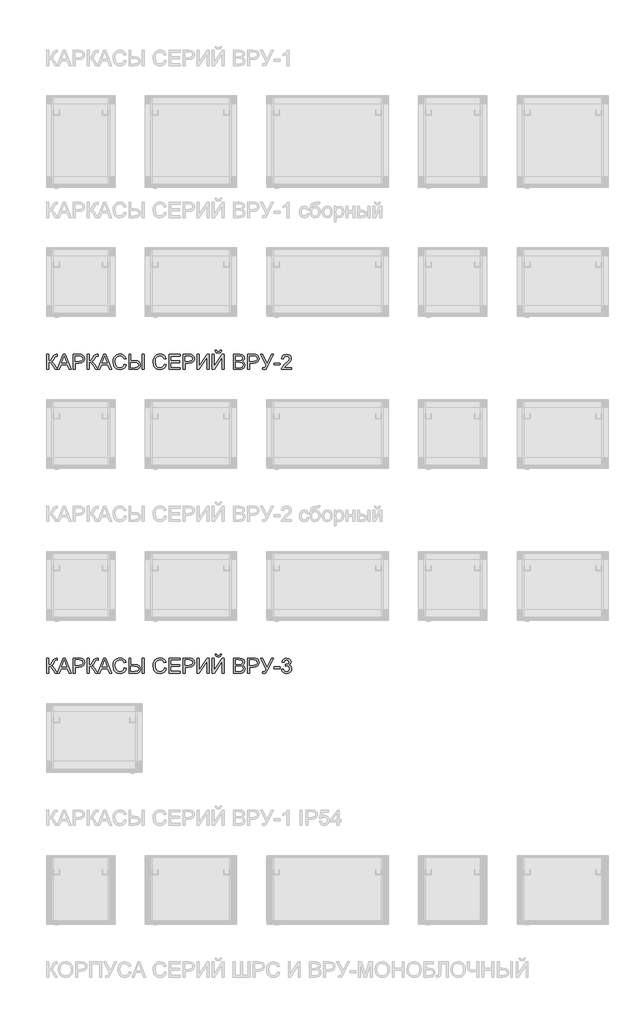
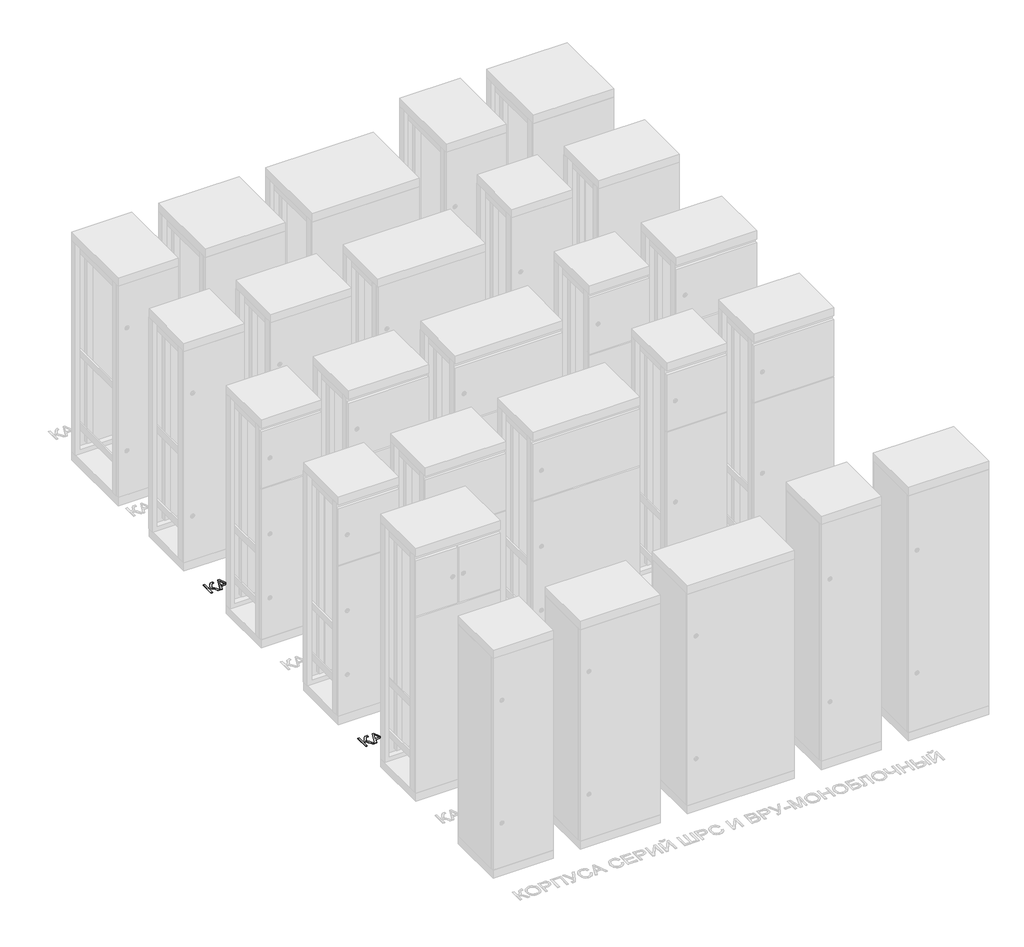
# One storey, part 5 of 25: 2 proxies.
"""IFC4 building model written with IfcOpenShell, lengths in millimetres."""

from ifc_helpers import new_model, si_unit, frame, origin, place, context, project, spatial, polyline, outline, extrude, element, save

model = new_model("IFC4")

# Units and contexts
model_context = context("Model", 3, world=origin())
ifc_project = project(units=[si_unit("LENGTHUNIT", "METRE", prefix="MILLI")], contexts=[model_context])

# Site, building, storey
site = spatial("IfcSite", under=ifc_project)
building = spatial("IfcBuilding", under=site)
storey = spatial("IfcBuildingStorey", under=building, Name="Этаж 01", Elevation=0.0)

# Proxies
placement = place(None, origin())
element("IfcBuildingElementProxy", 1, Name="Надпись на модели 1", ObjectType="Надпись на модели 1", at=placement, inside=storey, context=model_context, shape_type="SweptSolid", body=[
    extrude(outline(polyline([(-18982.0558227, 1786.235284), (-18999.9103622, 1814.5376722), (-19012.4796637, 1829.3142656), (-19025.564, 1833.3241794), (-19025.564, 1786.235284), (-19038.1210387, 1786.235284), (-19038.1210387, 1886.6915941), (-19025.564, 1886.6915941), (-19025.564, 1842.7419585), (-19011.5231705, 1846.0651591), (-19001.7252467, 1862.8773663), (-18994.7968024, 1876.9181958), (-18986.9486532, 1883.8711655), (-18975.7282523, 1886.6915941), (-18967.4876957, 1886.5444413), (-18967.4876957, 1873.9874026), (-18970.2590734, 1874.060979), (-18973.030451, 1874.1345554), (-18982.8406376, 1871.117923), (-18990.2963794, 1858.1930022), (-18999.1868609, 1842.4476529), (-19007.8566133, 1837.248254), (-18998.1629227, 1831.5706085), (-18988.6041222, 1819.737071), (-18967.9231583, 1786.9261574), (-18928.0997967, 1886.6915941), (-18917.4066934, 1886.6915941), (-18877.3075559, 1786.235284), (-18890.5758332, 1786.235284), (-18902.0782769, 1817.6278809), (-18943.4527386, 1817.6278809), (-18954.9306569, 1786.235284), (-18968.1989342, 1786.235284), (-18982.0558227, 1786.235284)]), holes=[polyline([(-18938.841951, 1830.1849197), (-18906.6645391, 1830.1849197), (-18915.7144362, 1854.8820643), (-18922.753245, 1874.1345554), (-18929.007239, 1857.0403053), (-18938.841951, 1830.1849197)])]), frame((0.0, 0.0, 40.0), z_axis=(0.0, 0.0, 1.0), x_axis=(1.0, 0.0, 0.0)), (0.0, 0.0, 1.0), 2.0),
    extrude(outline(polyline([(-18863.8921258, 1786.235284), (-18863.8921258, 1886.6915941), (-18826.6624679, 1886.6915941), (-18811.6528825, 1885.735101), (-18799.451463, 1881.0384742), (-18791.5420001, 1871.3263895), (-18788.5498932, 1857.6289165), (-18790.5701785, 1845.7892476), (-18796.6310344, 1835.9238788), (-18807.9648655, 1829.2652147), (-18825.8040766, 1827.04566), (-18851.335087, 1827.04566), (-18851.335087, 1786.235284), (-18863.8921258, 1786.235284)]), holes=[polyline([(-18851.335087, 1839.6026988), (-18825.0683126, 1839.6026988), (-18806.576111, 1844.2134864), (-18802.4742267, 1849.7623732), (-18801.106932, 1857.1874581), (-18804.3320308, 1867.5862559), (-18812.8055794, 1873.2761641), (-18825.3626182, 1874.1345554), (-18851.335087, 1874.1345554), (-18851.335087, 1839.6026988)])]), frame((0.0, 0.0, 40.0), z_axis=(0.0, 0.0, 1.0), x_axis=(1.0, 0.0, 0.0)), (0.0, 0.0, 1.0), 2.0),
    extrude(outline(polyline([(-18715.2187488, 1786.235284), (-18733.0732883, 1814.5376722), (-18745.6425898, 1829.3142656), (-18758.7269261, 1833.3241794), (-18758.7269261, 1786.235284), (-18771.2839649, 1786.235284), (-18771.2839649, 1886.6915941), (-18758.7269261, 1886.6915941), (-18758.7269261, 1842.7419585), (-18744.6860966, 1846.0651591), (-18734.8881728, 1862.8773663), (-18727.9597286, 1876.9181958), (-18720.1115794, 1883.8711655), (-18708.8911785, 1886.6915941), (-18700.6506218, 1886.5444413), (-18700.6506218, 1873.9874026), (-18703.4219995, 1874.060979), (-18706.1933772, 1874.1345554), (-18716.0035638, 1871.117923), (-18723.4593055, 1858.1930022), (-18732.3497871, 1842.4476529), (-18741.0195394, 1837.248254), (-18731.3258489, 1831.5706085), (-18721.7670483, 1819.737071), (-18701.0860845, 1786.9261574), (-18661.2627229, 1886.6915941), (-18650.5696195, 1886.6915941), (-18610.4704821, 1786.235284), (-18623.7387594, 1786.235284), (-18635.2412031, 1817.6278809), (-18676.6156648, 1817.6278809), (-18688.0935831, 1786.235284), (-18701.3618603, 1786.235284), (-18715.2187488, 1786.235284)]), holes=[polyline([(-18672.0048771, 1830.1849197), (-18639.8274653, 1830.1849197), (-18648.8773624, 1854.8820643), (-18655.9161712, 1874.1345554), (-18662.1701651, 1857.0403053), (-18672.0048771, 1830.1849197)])]), frame((0.0, 0.0, 40.0), z_axis=(0.0, 0.0, 1.0), x_axis=(1.0, 0.0, 0.0)), (0.0, 0.0, 1.0), 2.0),
    extrude(outline(polyline([(-18526.4217089, 1821.944363), (-18513.8646701, 1818.7070014), (-18519.6588116, 1804.0744951), (-18528.7516282, 1793.3844574), (-18540.6955303, 1786.845355), (-18555.0429281, 1784.6656541), (-18569.6079895, 1786.3149918), (-18581.1748125, 1791.2630046), (-18590.0407686, 1799.3380144), (-18596.503229, 1810.3683429), (-18601.7639415, 1837.2237285), (-18600.2770851, 1851.8715633), (-18595.8165159, 1864.5205726), (-18588.6152259, 1874.7691518), (-18578.9062069, 1882.2156965), (-18567.3915004, 1886.7498421), (-18554.773148, 1888.261224), (-18541.0051643, 1886.305318), (-18529.6222823, 1880.4376002), (-18520.9801211, 1871.0198211), (-18515.4343, 1858.4137314), (-18527.9913387, 1855.4216246), (-18538.2920346, 1870.8604056), (-18555.2636573, 1875.7041852), (-18574.9085559, 1870.3331081), (-18586.0063294, 1855.9121339), (-18589.2069027, 1837.248254), (-18585.4177182, 1815.6167927), (-18573.6209689, 1801.7966924), (-18556.2937269, 1797.2226929), (-18545.8121557, 1798.78006), (-18537.078024, 1803.4521614), (-18530.4837393, 1811.189946), (-18526.4217089, 1821.944363)])), frame((0.0, 0.0, 40.0), z_axis=(0.0, 0.0, 1.0), x_axis=(1.0, 0.0, 0.0)), (0.0, 0.0, 1.0), 2.0),
    extrude(outline(polyline([(-18496.5987418, 1886.6915941), (-18484.0417031, 1886.6915941), (-18484.0417031, 1844.3115883), (-18459.9086442, 1844.3115883), (-18440.269877, 1842.1165591), (-18428.7367765, 1835.5314713), (-18423.126576, 1826.1627432), (-18421.2565092, 1815.6167927), (-18423.2338749, 1804.6017926), (-18429.1659721, 1795.0521891), (-18440.4691464, 1788.4395103), (-18458.5597435, 1786.235284), (-18496.5987418, 1786.235284), (-18496.5987418, 1886.6915941)]), holes=[polyline([(-18484.0417031, 1798.7923228), (-18458.6823709, 1798.7923228), (-18439.7119226, 1802.777711), (-18435.2881416, 1807.9617815), (-18433.813548, 1815.5432163), (-18437.3820033, 1825.5250811), (-18446.6035787, 1830.6509035), (-18465.475925, 1831.7545495), (-18484.0417031, 1831.7545495), (-18484.0417031, 1798.7923228)])]), frame((0.0, 0.0, 40.0), z_axis=(0.0, 0.0, 1.0), x_axis=(1.0, 0.0, 0.0)), (0.0, 0.0, 1.0), 2.0),
    extrude(outline(polyline([(-18408.6994704, 1886.6915941), (-18396.1424317, 1886.6915941), (-18396.1424317, 1786.235284), (-18408.6994704, 1786.235284), (-18408.6994704, 1886.6915941)])), frame((0.0, 0.0, 40.0), z_axis=(0.0, 0.0, 1.0), x_axis=(1.0, 0.0, 0.0)), (0.0, 0.0, 1.0), 2.0),
    extrude(outline(polyline([(-18262.7238948, 1821.944363), (-18250.166856, 1818.7070014), (-18255.9609974, 1804.0744951), (-18265.0538141, 1793.3844574), (-18276.9977162, 1786.845355), (-18291.345114, 1784.6656541), (-18305.9101753, 1786.3149918), (-18317.4769984, 1791.2630046), (-18326.3429545, 1799.3380144), (-18332.8054148, 1810.3683429), (-18338.0661274, 1837.2237285), (-18336.579271, 1851.8715633), (-18332.1187018, 1864.5205726), (-18324.9174117, 1874.7691518), (-18315.2083927, 1882.2156965), (-18303.6936863, 1886.7498421), (-18291.0753339, 1888.261224), (-18277.3073502, 1886.305318), (-18265.9244681, 1880.4376002), (-18257.2823069, 1871.0198211), (-18251.7364858, 1858.4137314), (-18264.2935246, 1855.4216246), (-18274.5942205, 1870.8604056), (-18291.5658432, 1875.7041852), (-18311.2107417, 1870.3331081), (-18322.3085152, 1855.9121339), (-18325.5090886, 1837.248254), (-18321.7199041, 1815.6167927), (-18309.9231547, 1801.7966924), (-18292.5959128, 1797.2226929), (-18282.1143416, 1798.78006), (-18273.3802099, 1803.4521614), (-18266.7859251, 1811.189946), (-18262.7238948, 1821.944363)])), frame((0.0, 0.0, 40.0), z_axis=(0.0, 0.0, 1.0), x_axis=(1.0, 0.0, 0.0)), (0.0, 0.0, 1.0), 2.0),
    extrude(outline(polyline([(-18232.9009277, 1786.235284), (-18232.9009277, 1886.6915941), (-18160.6979548, 1886.6915941), (-18160.6979548, 1874.1345554), (-18220.3438889, 1874.1345554), (-18220.3438889, 1844.3115883), (-18163.8372145, 1844.3115883), (-18163.8372145, 1831.7545495), (-18220.3438889, 1831.7545495), (-18220.3438889, 1798.7923228), (-18159.1283249, 1798.7923228), (-18159.1283249, 1786.235284), (-18232.9009277, 1786.235284)])), frame((0.0, 0.0, 40.0), z_axis=(0.0, 0.0, 1.0), x_axis=(1.0, 0.0, 0.0)), (0.0, 0.0, 1.0), 2.0),
    extrude(outline(polyline([(-18140.2927668, 1786.235284), (-18140.2927668, 1886.6915941), (-18103.0631089, 1886.6915941), (-18088.0535235, 1885.735101), (-18075.8521039, 1881.0384742), (-18067.942641, 1871.3263895), (-18064.9505342, 1857.6289165), (-18066.9708194, 1845.7892476), (-18073.0316753, 1835.9238788), (-18084.3655064, 1829.2652147), (-18102.2047175, 1827.04566), (-18127.735728, 1827.04566), (-18127.735728, 1786.235284), (-18140.2927668, 1786.235284)]), holes=[polyline([(-18127.735728, 1839.6026988), (-18101.4689535, 1839.6026988), (-18082.9767519, 1844.2134864), (-18078.8748677, 1849.7623732), (-18077.5075729, 1857.1874581), (-18080.7326717, 1867.5862559), (-18089.2062204, 1873.2761641), (-18101.7632591, 1874.1345554), (-18127.735728, 1874.1345554), (-18127.735728, 1839.6026988)])]), frame((0.0, 0.0, 40.0), z_axis=(0.0, 0.0, 1.0), x_axis=(1.0, 0.0, 0.0)), (0.0, 0.0, 1.0), 2.0),
    extrude(outline(polyline([(-18047.6846058, 1886.6915941), (-18035.1275671, 1886.6915941), (-18035.1275671, 1807.1309813), (-17982.5449672, 1886.6915941), (-17969.2031135, 1886.6915941), (-17969.2031135, 1786.235284), (-17981.7601523, 1786.235284), (-17981.7601523, 1865.5751676), (-18034.2201248, 1786.235284), (-18047.6846058, 1786.235284), (-18047.6846058, 1886.6915941)])), frame((0.0, 0.0, 40.0), z_axis=(0.0, 0.0, 1.0), x_axis=(1.0, 0.0, 0.0)), (0.0, 0.0, 1.0), 2.0),
    extrude(outline(polyline([(-17897.0001406, 1911.8056717), (-17887.5823615, 1911.8056717), (-17893.6769399, 1897.8384186), (-17907.2027346, 1892.9701135), (-17921.844438, 1897.8016304), (-17928.3927375, 1911.8056717), (-17918.9749585, 1911.8056717), (-17915.4432913, 1904.7300746), (-17908.3309061, 1902.3878926), (-17900.5318078, 1904.6564982), (-17897.0001406, 1911.8056717)])), frame((0.0, 0.0, 40.0), z_axis=(0.0, 0.0, 1.0), x_axis=(1.0, 0.0, 0.0)), (0.0, 0.0, 1.0), 2.0),
    extrude(outline(polyline([(-17947.2282957, 1886.6915941), (-17934.6712569, 1886.6915941), (-17934.6712569, 1807.1309813), (-17882.0886571, 1886.6915941), (-17868.7468034, 1886.6915941), (-17868.7468034, 1786.235284), (-17881.3038422, 1786.235284), (-17881.3038422, 1865.5751676), (-17933.7638147, 1786.235284), (-17947.2282957, 1786.235284), (-17947.2282957, 1886.6915941)])), frame((0.0, 0.0, 40.0), z_axis=(0.0, 0.0, 1.0), x_axis=(1.0, 0.0, 0.0)), (0.0, 0.0, 1.0), 2.0),
    extrude(outline(polyline([(-17807.5312394, 1786.235284), (-17807.5312394, 1886.6915941), (-17769.1979355, 1886.6915941), (-17750.423691, 1883.7362754), (-17739.3381802, 1874.6495902), (-17735.3282665, 1861.7982458), (-17738.7005181, 1850.0628102), (-17748.8908494, 1841.1723286), (-17736.5177516, 1831.8036005), (-17732.1890068, 1816.1808784), (-17735.1443255, 1802.6796092), (-17742.4651772, 1793.0656264), (-17753.3912724, 1787.9643294), (-17769.4922411, 1786.235284), (-17807.5312394, 1786.235284)]), holes=[polyline([(-17794.9742006, 1845.8812181), (-17772.0428896, 1845.8812181), (-17758.651985, 1846.9603387), (-17750.5953693, 1851.6079145), (-17747.8853052, 1859.7871576), (-17750.4114283, 1867.9786633), (-17757.6464408, 1872.8224429), (-17773.7841977, 1874.1345554), (-17794.9742006, 1874.1345554), (-17794.9742006, 1845.8812181)]), polyline([(-17794.9742006, 1798.7923228), (-17769.222461, 1798.7923228), (-17759.9027838, 1799.2828321), (-17752.0178463, 1802.0174216), (-17746.793922, 1807.5969652), (-17744.7460456, 1816.0582511), (-17747.1495413, 1825.8193867), (-17754.9363768, 1831.6441849), (-17770.4487343, 1833.3241794), (-17794.9742006, 1833.3241794), (-17794.9742006, 1798.7923228)])]), frame((0.0, 0.0, 40.0), z_axis=(0.0, 0.0, 1.0), x_axis=(1.0, 0.0, 0.0)), (0.0, 0.0, 1.0), 2.0),
    extrude(outline(polyline([(-17714.9230785, 1786.235284), (-17714.9230785, 1886.6915941), (-17677.6934206, 1886.6915941), (-17662.6838352, 1885.735101), (-17650.4824157, 1881.0384742), (-17642.5729528, 1871.3263895), (-17639.5808459, 1857.6289165), (-17641.6011312, 1845.7892476), (-17647.661987, 1835.9238788), (-17658.9958182, 1829.2652147), (-17676.8350292, 1827.04566), (-17702.3660397, 1827.04566), (-17702.3660397, 1786.235284), (-17714.9230785, 1786.235284)]), holes=[polyline([(-17702.3660397, 1839.6026988), (-17676.0992653, 1839.6026988), (-17657.6070636, 1844.2134864), (-17653.5051794, 1849.7623732), (-17652.1378846, 1857.1874581), (-17655.3629835, 1867.5862559), (-17663.8365321, 1873.2761641), (-17676.3935708, 1874.1345554), (-17702.3660397, 1874.1345554), (-17702.3660397, 1839.6026988)])]), frame((0.0, 0.0, 40.0), z_axis=(0.0, 0.0, 1.0), x_axis=(1.0, 0.0, 0.0)), (0.0, 0.0, 1.0), 2.0),
    extrude(outline(polyline([(-17629.3782519, 1886.6915941), (-17615.4723124, 1886.6915941), (-17585.4286162, 1827.1928128), (-17558.4015523, 1886.6915941), (-17544.6182402, 1886.6915941), (-17582.7553403, 1808.430831), (-17593.1296126, 1789.2028654), (-17604.7301582, 1784.6656541), (-17616.0363982, 1786.235284), (-17616.0363982, 1797.2226929), (-17606.1526352, 1797.2226929), (-17598.8195208, 1800.0185961), (-17592.0259666, 1812.7473131), (-17629.3782519, 1886.6915941)])), frame((0.0, 0.0, 40.0), z_axis=(0.0, 0.0, 1.0), x_axis=(1.0, 0.0, 0.0)), (0.0, 0.0, 1.0), 2.0),
    extrude(outline(polyline([(-17540.6941656, 1816.0582511), (-17540.6941656, 1828.6152898), (-17501.4534194, 1828.6152898), (-17501.4534194, 1816.0582511), (-17540.6941656, 1816.0582511)])), frame((0.0, 0.0, 40.0), z_axis=(0.0, 0.0, 1.0), x_axis=(1.0, 0.0, 0.0)), (0.0, 0.0, 1.0), 2.0),
    extrude(outline(polyline([(-17426.1111868, 1798.7923228), (-17426.1111868, 1786.235284), (-17492.0356403, 1786.235284), (-17490.6867397, 1794.8927736), (-17483.0593196, 1808.2223646), (-17467.3384957, 1822.7782288), (-17445.6579835, 1843.6984516), (-17440.2378554, 1857.9232221), (-17445.3514151, 1869.4379286), (-17458.7055316, 1874.1345554), (-17472.6237337, 1869.5482932), (-17477.9089717, 1856.8686271), (-17490.4660105, 1858.4382569), (-17487.421787, 1870.5844941), (-17480.8397649, 1879.4565816), (-17471.0633009, 1884.882841), (-17458.4357514, 1886.6915941), (-17445.7162315, 1884.6805059), (-17435.9581615, 1878.6472412), (-17429.7501529, 1869.6341323), (-17427.6808166, 1858.6835116), (-17429.9126341, 1846.7763977), (-17437.3315876, 1834.4646136), (-17455.3210172, 1817.2599989), (-17469.7665169, 1805.1812067), (-17475.4318996, 1798.7923228), (-17426.1111868, 1798.7923228)])), frame((0.0, 0.0, 40.0), z_axis=(0.0, 0.0, 1.0), x_axis=(1.0, 0.0, 0.0)), (0.0, 0.0, 1.0), 2.0),
])
element("IfcBuildingElementProxy", 2, Name="Надпись на модели 1", ObjectType="Надпись на модели 1", at=placement, inside=storey, context=model_context, shape_type="SweptSolid", body=[
    extrude(outline(polyline([(-18982.0558227, -213.764716), (-18999.9103622, -185.4623278), (-19012.4796637, -170.6857344), (-19025.564, -166.6758206), (-19025.564, -213.764716), (-19038.1210387, -213.764716), (-19038.1210387, -113.3084059), (-19025.564, -113.3084059), (-19025.564, -157.2580415), (-19011.5231705, -153.9348409), (-19001.7252467, -137.1226337), (-18994.7968024, -123.0818042), (-18986.9486532, -116.1288345), (-18975.7282523, -113.3084059), (-18967.4876957, -113.4555587), (-18967.4876957, -126.0125974), (-18970.2590734, -125.939021), (-18973.030451, -125.8654446), (-18982.8406376, -128.882077), (-18990.2963794, -141.8069978), (-18999.1868609, -157.5523471), (-19007.8566133, -162.751746), (-18998.1629227, -168.4293915), (-18988.6041222, -180.262929), (-18967.9231583, -213.0738426), (-18928.0997967, -113.3084059), (-18917.4066934, -113.3084059), (-18877.3075559, -213.764716), (-18890.5758332, -213.764716), (-18902.0782769, -182.3721191), (-18943.4527386, -182.3721191), (-18954.9306569, -213.764716), (-18968.1989342, -213.764716), (-18982.0558227, -213.764716)]), holes=[polyline([(-18938.841951, -169.8150803), (-18906.6645391, -169.8150803), (-18915.7144362, -145.1179357), (-18922.753245, -125.8654446), (-18929.007239, -142.9596947), (-18938.841951, -169.8150803)])]), frame((0.0, 0.0, 40.0), z_axis=(0.0, 0.0, 1.0), x_axis=(1.0, 0.0, 0.0)), (0.0, 0.0, 1.0), 2.0),
    extrude(outline(polyline([(-18863.8921258, -213.764716), (-18863.8921258, -113.3084059), (-18826.6624679, -113.3084059), (-18811.6528825, -114.264899), (-18799.451463, -118.9615258), (-18791.5420001, -128.6736105), (-18788.5498932, -142.3710835), (-18790.5701785, -154.2107524), (-18796.6310344, -164.0761212), (-18807.9648655, -170.7347853), (-18825.8040766, -172.95434), (-18851.335087, -172.95434), (-18851.335087, -213.764716), (-18863.8921258, -213.764716)]), holes=[polyline([(-18851.335087, -160.3973012), (-18825.0683126, -160.3973012), (-18806.576111, -155.7865136), (-18802.4742267, -150.2376268), (-18801.106932, -142.8125419), (-18804.3320308, -132.4137441), (-18812.8055794, -126.7238359), (-18825.3626182, -125.8654446), (-18851.335087, -125.8654446), (-18851.335087, -160.3973012)])]), frame((0.0, 0.0, 40.0), z_axis=(0.0, 0.0, 1.0), x_axis=(1.0, 0.0, 0.0)), (0.0, 0.0, 1.0), 2.0),
    extrude(outline(polyline([(-18715.2187488, -213.764716), (-18733.0732883, -185.4623278), (-18745.6425898, -170.6857344), (-18758.7269261, -166.6758206), (-18758.7269261, -213.764716), (-18771.2839649, -213.764716), (-18771.2839649, -113.3084059), (-18758.7269261, -113.3084059), (-18758.7269261, -157.2580415), (-18744.6860966, -153.9348409), (-18734.8881728, -137.1226337), (-18727.9597286, -123.0818042), (-18720.1115794, -116.1288345), (-18708.8911785, -113.3084059), (-18700.6506218, -113.4555587), (-18700.6506218, -126.0125974), (-18703.4219995, -125.939021), (-18706.1933772, -125.8654446), (-18716.0035638, -128.882077), (-18723.4593055, -141.8069978), (-18732.3497871, -157.5523471), (-18741.0195394, -162.751746), (-18731.3258489, -168.4293915), (-18721.7670483, -180.262929), (-18701.0860845, -213.0738426), (-18661.2627229, -113.3084059), (-18650.5696195, -113.3084059), (-18610.4704821, -213.764716), (-18623.7387594, -213.764716), (-18635.2412031, -182.3721191), (-18676.6156648, -182.3721191), (-18688.0935831, -213.764716), (-18701.3618603, -213.764716), (-18715.2187488, -213.764716)]), holes=[polyline([(-18672.0048771, -169.8150803), (-18639.8274653, -169.8150803), (-18648.8773624, -145.1179357), (-18655.9161712, -125.8654446), (-18662.1701651, -142.9596947), (-18672.0048771, -169.8150803)])]), frame((0.0, 0.0, 40.0), z_axis=(0.0, 0.0, 1.0), x_axis=(1.0, 0.0, 0.0)), (0.0, 0.0, 1.0), 2.0),
    extrude(outline(polyline([(-18526.4217089, -178.055637), (-18513.8646701, -181.2929986), (-18519.6588116, -195.9255049), (-18528.7516282, -206.6155426), (-18540.6955303, -213.154645), (-18555.0429281, -215.3343459), (-18569.6079895, -213.6850082), (-18581.1748125, -208.7369954), (-18590.0407686, -200.6619856), (-18596.503229, -189.6316571), (-18601.7639415, -162.7762715), (-18600.2770851, -148.1284367), (-18595.8165159, -135.4794274), (-18588.6152259, -125.2308482), (-18578.9062069, -117.7843035), (-18567.3915004, -113.2501579), (-18554.773148, -111.738776), (-18541.0051643, -113.694682), (-18529.6222823, -119.5623998), (-18520.9801211, -128.9801789), (-18515.4343, -141.5862686), (-18527.9913387, -144.5783754), (-18538.2920346, -129.1395944), (-18555.2636573, -124.2958148), (-18574.9085559, -129.6668919), (-18586.0063294, -144.0878661), (-18589.2069027, -162.751746), (-18585.4177182, -184.3832073), (-18573.6209689, -198.2033076), (-18556.2937269, -202.7773071), (-18545.8121557, -201.21994), (-18537.078024, -196.5478386), (-18530.4837393, -188.810054), (-18526.4217089, -178.055637)])), frame((0.0, 0.0, 40.0), z_axis=(0.0, 0.0, 1.0), x_axis=(1.0, 0.0, 0.0)), (0.0, 0.0, 1.0), 2.0),
    extrude(outline(polyline([(-18496.5987418, -113.3084059), (-18484.0417031, -113.3084059), (-18484.0417031, -155.6884117), (-18459.9086442, -155.6884117), (-18440.269877, -157.8834409), (-18428.7367765, -164.4685287), (-18423.126576, -173.8372568), (-18421.2565092, -184.3832073), (-18423.2338749, -195.3982074), (-18429.1659721, -204.9478109), (-18440.4691464, -211.5604897), (-18458.5597435, -213.764716), (-18496.5987418, -213.764716), (-18496.5987418, -113.3084059)]), holes=[polyline([(-18484.0417031, -201.2076772), (-18458.6823709, -201.2076772), (-18439.7119226, -197.222289), (-18435.2881416, -192.0382185), (-18433.813548, -184.4567837), (-18437.3820033, -174.4749189), (-18446.6035787, -169.3490965), (-18465.475925, -168.2454505), (-18484.0417031, -168.2454505), (-18484.0417031, -201.2076772)])]), frame((0.0, 0.0, 40.0), z_axis=(0.0, 0.0, 1.0), x_axis=(1.0, 0.0, 0.0)), (0.0, 0.0, 1.0), 2.0),
    extrude(outline(polyline([(-18408.6994704, -113.3084059), (-18396.1424317, -113.3084059), (-18396.1424317, -213.764716), (-18408.6994704, -213.764716), (-18408.6994704, -113.3084059)])), frame((0.0, 0.0, 40.0), z_axis=(0.0, 0.0, 1.0), x_axis=(1.0, 0.0, 0.0)), (0.0, 0.0, 1.0), 2.0),
    extrude(outline(polyline([(-18262.7238948, -178.055637), (-18250.166856, -181.2929986), (-18255.9609974, -195.9255049), (-18265.0538141, -206.6155426), (-18276.9977162, -213.154645), (-18291.345114, -215.3343459), (-18305.9101753, -213.6850082), (-18317.4769984, -208.7369954), (-18326.3429545, -200.6619856), (-18332.8054148, -189.6316571), (-18338.0661274, -162.7762715), (-18336.579271, -148.1284367), (-18332.1187018, -135.4794274), (-18324.9174117, -125.2308482), (-18315.2083927, -117.7843035), (-18303.6936863, -113.2501579), (-18291.0753339, -111.738776), (-18277.3073502, -113.694682), (-18265.9244681, -119.5623998), (-18257.2823069, -128.9801789), (-18251.7364858, -141.5862686), (-18264.2935246, -144.5783754), (-18274.5942205, -129.1395944), (-18291.5658432, -124.2958148), (-18311.2107417, -129.6668919), (-18322.3085152, -144.0878661), (-18325.5090886, -162.751746), (-18321.7199041, -184.3832073), (-18309.9231547, -198.2033076), (-18292.5959128, -202.7773071), (-18282.1143416, -201.21994), (-18273.3802099, -196.5478386), (-18266.7859251, -188.810054), (-18262.7238948, -178.055637)])), frame((0.0, 0.0, 40.0), z_axis=(0.0, 0.0, 1.0), x_axis=(1.0, 0.0, 0.0)), (0.0, 0.0, 1.0), 2.0),
    extrude(outline(polyline([(-18232.9009277, -213.764716), (-18232.9009277, -113.3084059), (-18160.6979548, -113.3084059), (-18160.6979548, -125.8654446), (-18220.3438889, -125.8654446), (-18220.3438889, -155.6884117), (-18163.8372145, -155.6884117), (-18163.8372145, -168.2454505), (-18220.3438889, -168.2454505), (-18220.3438889, -201.2076772), (-18159.1283249, -201.2076772), (-18159.1283249, -213.764716), (-18232.9009277, -213.764716)])), frame((0.0, 0.0, 40.0), z_axis=(0.0, 0.0, 1.0), x_axis=(1.0, 0.0, 0.0)), (0.0, 0.0, 1.0), 2.0),
    extrude(outline(polyline([(-18140.2927668, -213.764716), (-18140.2927668, -113.3084059), (-18103.0631089, -113.3084059), (-18088.0535235, -114.264899), (-18075.8521039, -118.9615258), (-18067.942641, -128.6736105), (-18064.9505342, -142.3710835), (-18066.9708194, -154.2107524), (-18073.0316753, -164.0761212), (-18084.3655064, -170.7347853), (-18102.2047175, -172.95434), (-18127.735728, -172.95434), (-18127.735728, -213.764716), (-18140.2927668, -213.764716)]), holes=[polyline([(-18127.735728, -160.3973012), (-18101.4689535, -160.3973012), (-18082.9767519, -155.7865136), (-18078.8748677, -150.2376268), (-18077.5075729, -142.8125419), (-18080.7326717, -132.4137441), (-18089.2062204, -126.7238359), (-18101.7632591, -125.8654446), (-18127.735728, -125.8654446), (-18127.735728, -160.3973012)])]), frame((0.0, 0.0, 40.0), z_axis=(0.0, 0.0, 1.0), x_axis=(1.0, 0.0, 0.0)), (0.0, 0.0, 1.0), 2.0),
    extrude(outline(polyline([(-18047.6846058, -113.3084059), (-18035.1275671, -113.3084059), (-18035.1275671, -192.8690187), (-17982.5449672, -113.3084059), (-17969.2031135, -113.3084059), (-17969.2031135, -213.764716), (-17981.7601523, -213.764716), (-17981.7601523, -134.4248324), (-18034.2201248, -213.764716), (-18047.6846058, -213.764716), (-18047.6846058, -113.3084059)])), frame((0.0, 0.0, 40.0), z_axis=(0.0, 0.0, 1.0), x_axis=(1.0, 0.0, 0.0)), (0.0, 0.0, 1.0), 2.0),
    extrude(outline(polyline([(-17897.0001406, -88.1943283), (-17887.5823615, -88.1943283), (-17893.6769399, -102.1615814), (-17907.2027346, -107.0298865), (-17921.844438, -102.1983696), (-17928.3927375, -88.1943283), (-17918.9749585, -88.1943283), (-17915.4432913, -95.2699254), (-17908.3309061, -97.6121074), (-17900.5318078, -95.3435018), (-17897.0001406, -88.1943283)])), frame((0.0, 0.0, 40.0), z_axis=(0.0, 0.0, 1.0), x_axis=(1.0, 0.0, 0.0)), (0.0, 0.0, 1.0), 2.0),
    extrude(outline(polyline([(-17947.2282957, -113.3084059), (-17934.6712569, -113.3084059), (-17934.6712569, -192.8690187), (-17882.0886571, -113.3084059), (-17868.7468034, -113.3084059), (-17868.7468034, -213.764716), (-17881.3038422, -213.764716), (-17881.3038422, -134.4248324), (-17933.7638147, -213.764716), (-17947.2282957, -213.764716), (-17947.2282957, -113.3084059)])), frame((0.0, 0.0, 40.0), z_axis=(0.0, 0.0, 1.0), x_axis=(1.0, 0.0, 0.0)), (0.0, 0.0, 1.0), 2.0),
    extrude(outline(polyline([(-17807.5312394, -213.764716), (-17807.5312394, -113.3084059), (-17769.1979355, -113.3084059), (-17750.423691, -116.2637246), (-17739.3381802, -125.3504098), (-17735.3282665, -138.2017542), (-17738.7005181, -149.9371898), (-17748.8908494, -158.8276714), (-17736.5177516, -168.1963995), (-17732.1890068, -183.8191216), (-17735.1443255, -197.3203908), (-17742.4651772, -206.9343736), (-17753.3912724, -212.0356706), (-17769.4922411, -213.764716), (-17807.5312394, -213.764716)]), holes=[polyline([(-17794.9742006, -154.1187819), (-17772.0428896, -154.1187819), (-17758.651985, -153.0396613), (-17750.5953693, -148.3920855), (-17747.8853052, -140.2128424), (-17750.4114283, -132.0213367), (-17757.6464408, -127.1775571), (-17773.7841977, -125.8654446), (-17794.9742006, -125.8654446), (-17794.9742006, -154.1187819)]), polyline([(-17794.9742006, -201.2076772), (-17769.222461, -201.2076772), (-17759.9027838, -200.7171679), (-17752.0178463, -197.9825784), (-17746.793922, -192.4030348), (-17744.7460456, -183.9417489), (-17747.1495413, -174.1806133), (-17754.9363768, -168.3558151), (-17770.4487343, -166.6758206), (-17794.9742006, -166.6758206), (-17794.9742006, -201.2076772)])]), frame((0.0, 0.0, 40.0), z_axis=(0.0, 0.0, 1.0), x_axis=(1.0, 0.0, 0.0)), (0.0, 0.0, 1.0), 2.0),
    extrude(outline(polyline([(-17714.9230785, -213.764716), (-17714.9230785, -113.3084059), (-17677.6934206, -113.3084059), (-17662.6838352, -114.264899), (-17650.4824157, -118.9615258), (-17642.5729528, -128.6736105), (-17639.5808459, -142.3710835), (-17641.6011312, -154.2107524), (-17647.661987, -164.0761212), (-17658.9958182, -170.7347853), (-17676.8350292, -172.95434), (-17702.3660397, -172.95434), (-17702.3660397, -213.764716), (-17714.9230785, -213.764716)]), holes=[polyline([(-17702.3660397, -160.3973012), (-17676.0992653, -160.3973012), (-17657.6070636, -155.7865136), (-17653.5051794, -150.2376268), (-17652.1378846, -142.8125419), (-17655.3629835, -132.4137441), (-17663.8365321, -126.7238359), (-17676.3935708, -125.8654446), (-17702.3660397, -125.8654446), (-17702.3660397, -160.3973012)])]), frame((0.0, 0.0, 40.0), z_axis=(0.0, 0.0, 1.0), x_axis=(1.0, 0.0, 0.0)), (0.0, 0.0, 1.0), 2.0),
    extrude(outline(polyline([(-17629.3782519, -113.3084059), (-17615.4723124, -113.3084059), (-17585.4286162, -172.8071872), (-17558.4015523, -113.3084059), (-17544.6182402, -113.3084059), (-17582.7553403, -191.569169), (-17593.1296126, -210.7971346), (-17604.7301582, -215.3343459), (-17616.0363982, -213.764716), (-17616.0363982, -202.7773071), (-17606.1526352, -202.7773071), (-17598.8195208, -199.9814039), (-17592.0259666, -187.2526869), (-17629.3782519, -113.3084059)])), frame((0.0, 0.0, 40.0), z_axis=(0.0, 0.0, 1.0), x_axis=(1.0, 0.0, 0.0)), (0.0, 0.0, 1.0), 2.0),
    extrude(outline(polyline([(-17540.6941656, -183.9417489), (-17540.6941656, -171.3847102), (-17501.4534194, -171.3847102), (-17501.4534194, -183.9417489), (-17540.6941656, -183.9417489)])), frame((0.0, 0.0, 40.0), z_axis=(0.0, 0.0, 1.0), x_axis=(1.0, 0.0, 0.0)), (0.0, 0.0, 1.0), 2.0),
    extrude(outline(polyline([(-17490.4660105, -187.0810086), (-17477.9089717, -185.5113788), (-17470.9805275, -198.7306051), (-17458.0188185, -202.7773071), (-17449.4103798, -201.3854869), (-17442.7639784, -197.2100262), (-17437.0985957, -183.4267141), (-17442.7149275, -170.4404797), (-17456.9887489, -165.3023945), (-17465.7933913, -166.6758206), (-17464.3954398, -154.1187819), (-17462.3843515, -154.2659347), (-17448.1350556, -150.6606911), (-17443.3893778, -146.0866916), (-17441.8074853, -139.5751803), (-17446.3937475, -129.752731), (-17458.2150222, -125.8654446), (-17470.1834498, -129.7895192), (-17476.3393419, -141.5617431), (-17488.8963806, -139.9921132), (-17485.1991666, -128.7165301), (-17478.6202102, -120.2981638), (-17469.6193641, -115.0558453), (-17458.6564806, -113.3084059), (-17443.5120052, -116.7542339), (-17432.9170037, -126.172013), (-17429.2504465, -138.8394163), (-17432.7330627, -150.4154364), (-17443.0337586, -158.7295695), (-17429.3485484, -167.3134827), (-17424.5415569, -183.6474433), (-17426.9450527, -195.885651), (-17434.1555398, -206.1127705), (-17445.0387154, -213.028952), (-17458.4602769, -215.3343459), (-17470.6003827, -213.3661772), (-17480.4841457, -207.4616712), (-17487.3574076, -198.4301682), (-17490.4660105, -187.0810086)])), frame((0.0, 0.0, 40.0), z_axis=(0.0, 0.0, 1.0), x_axis=(1.0, 0.0, 0.0)), (0.0, 0.0, 1.0), 2.0),
])

save(model, "model.ifc")
